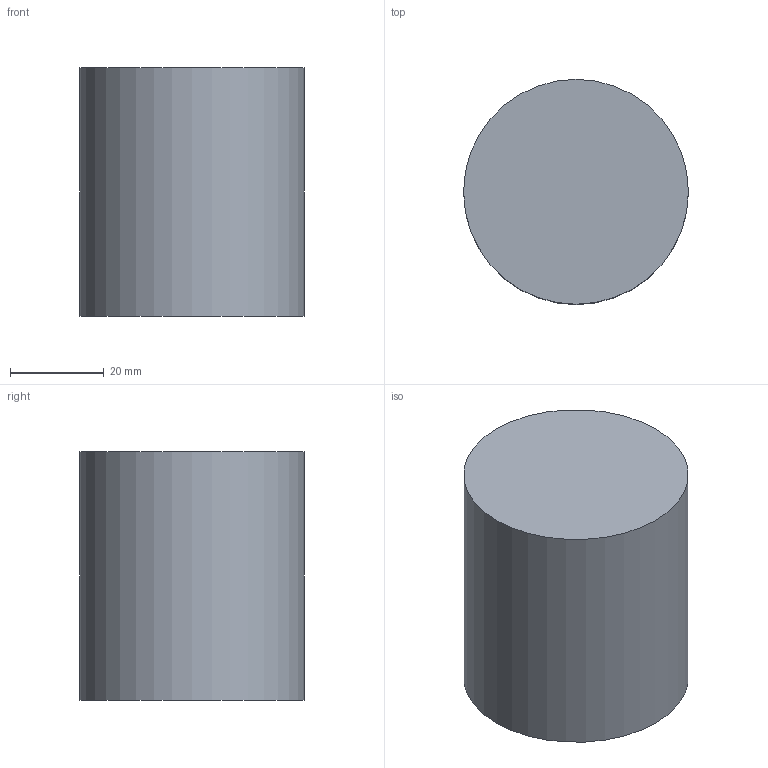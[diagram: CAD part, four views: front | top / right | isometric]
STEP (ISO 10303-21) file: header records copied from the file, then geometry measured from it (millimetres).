
FILE_DESCRIPTION(('Open CASCADE Model'),'2;1');
FILE_NAME('Open CASCADE Shape Model','2026-10-04T01:02:29',('Author'),( 'Open CASCADE'),'Open CASCADE STEP processor 8.0','Open CASCADE 8.0' ,'Unknown');
FILE_SCHEMA(('AUTOMOTIVE_DESIGN { 1 0 10303 214 1 1 1 1 }'));
Length unit declared in the file: millimetre
Products named in the file (1): Open CASCADE STEP translator 8.0 182
Bounding box: 48 x 48 x 53 mm (x, y, z)
Volume: 95906.5 mm3; surface area: 11611.3 mm2
Topology: 1 solids, 1 shells, 3 faces, 3 edges, 2 vertices
Faces by surface type: plane 2, cylinder 1
Full cylindrical faces by diameter (mm): 48 x1
Entity records: 108 total; most frequent: DIRECTION 19, CARTESIAN_POINT 15, AXIS2_PLACEMENT_3D 6, ORIENTED_EDGE 6, PCURVE 6, DEFINITIONAL_REPRESENTATION 6, LINE 5, VECTOR 5
